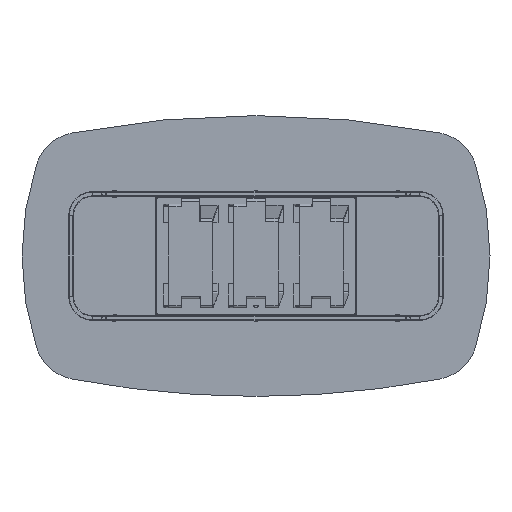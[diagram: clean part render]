
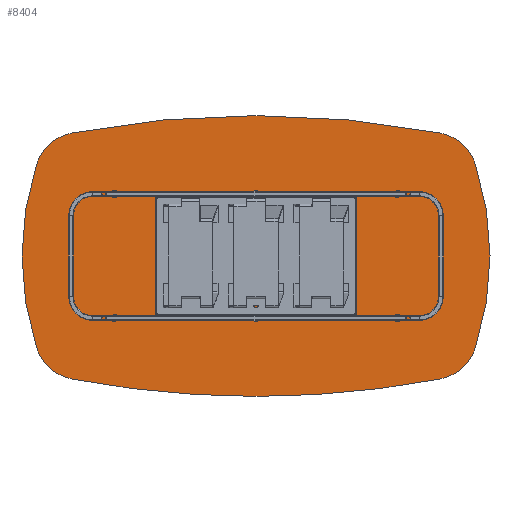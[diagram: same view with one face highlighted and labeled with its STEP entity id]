
A CAD part, front view. The second image highlights one B-rep face of the part: STEP entity #8404.
In plain terms, the highlighted planar face has unit normal (0, -1, 0).
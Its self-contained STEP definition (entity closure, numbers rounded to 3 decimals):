
#56 = CIRCLE ( 'NONE', #4020, 1261. ) ;
#105 = CIRCLE ( 'NONE', #4922, 4200. ) ;
#195 = DIRECTION ( 'NONE',  ( 0., 1., 0. ) ) ;
#339 = VERTEX_POINT ( 'NONE', #14155 ) ;
#368 = VERTEX_POINT ( 'NONE', #13359 ) ;
#580 = PLANE ( 'NONE',  #9961 ) ;
#584 = CARTESIAN_POINT ( 'NONE',  ( 0., 0., -3600. ) ) ;
#750 = ORIENTED_EDGE ( 'NONE', *, *, #14027, .T. ) ;
#1892 = CARTESIAN_POINT ( 'NONE',  ( -937.639, 0., -391.646 ) ) ;
#2009 = DIRECTION ( 'NONE',  ( 0., 0., 1. ) ) ;
#2068 = EDGE_CURVE ( 'NONE', #2678, #13800, #11245, .T. ) ;
#2081 = VERTEX_POINT ( 'NONE', #6579 ) ;
#2361 = DIRECTION ( 'NONE',  ( 0., 1., 0. ) ) ;
#2556 = CARTESIAN_POINT ( 'NONE',  ( 0., 0., 3600. ) ) ;
#2678 = VERTEX_POINT ( 'NONE', #15200 ) ;
#2862 = CARTESIAN_POINT ( 'NONE',  ( 0., 0., 3600. ) ) ;
#2985 = CARTESIAN_POINT ( 'NONE',  ( 937.639, 0., -391.646 ) ) ;
#3069 = VERTEX_POINT ( 'NONE', #9601 ) ;
#3329 = DIRECTION ( 'NONE',  ( 0., 1., 0. ) ) ;
#3498 = CARTESIAN_POINT ( 'NONE',  ( 784.906, 0., 526.006 ) ) ;
#3706 = DIRECTION ( 'NONE',  ( 0., 0., 1. ) ) ;
#3935 = ORIENTED_EDGE ( 'NONE', *, *, #11975, .T. ) ;
#4020 = AXIS2_PLACEMENT_3D ( 'NONE', #12676, #7140, #12584 ) ;
#4090 = CIRCLE ( 'NONE', #10076, 1261. ) ;
#4745 = CARTESIAN_POINT ( 'NONE',  ( -261., 0., 0. ) ) ;
#4922 = AXIS2_PLACEMENT_3D ( 'NONE', #2556, #14456, #3706 ) ;
#5084 = DIRECTION ( 'NONE',  ( 0., 0., 1. ) ) ;
#5173 = CARTESIAN_POINT ( 'NONE',  ( 784.906, 0., -526.006 ) ) ;
#5453 = ORIENTED_EDGE ( 'NONE', *, *, #2068, .T. ) ;
#5819 = ORIENTED_EDGE ( 'NONE', *, *, #14848, .T. ) ;
#6579 = CARTESIAN_POINT ( 'NONE',  ( -784.906, 0., -526.006 ) ) ;
#6822 = CIRCLE ( 'NONE', #16742, 4200. ) ;
#7026 = ORIENTED_EDGE ( 'NONE', *, *, #16760, .F. ) ;
#7140 = DIRECTION ( 'NONE',  ( 0., 1., 0. ) ) ;
#8404 = ADVANCED_FACE ( 'NONE', ( #10017 ), #580, .F. ) ;
#8590 = CIRCLE ( 'NONE', #14542, 200. ) ;
#8646 = ORIENTED_EDGE ( 'NONE', *, *, #13701, .F. ) ;
#8750 = CARTESIAN_POINT ( 'NONE',  ( -747.529, 0., 329.529 ) ) ;
#8765 = DIRECTION ( 'NONE',  ( 0., 0., 1. ) ) ;
#9396 = DIRECTION ( 'NONE',  ( 0., -1., 0. ) ) ;
#9516 = AXIS2_PLACEMENT_3D ( 'NONE', #14584, #12823, #15564 ) ;
#9561 = EDGE_CURVE ( 'NONE', #3069, #13800, #13621, .T. ) ;
#9601 = CARTESIAN_POINT ( 'NONE',  ( -784.906, 0., 526.006 ) ) ;
#9617 = DIRECTION ( 'NONE',  ( 0., -1., 0. ) ) ;
#9961 = AXIS2_PLACEMENT_3D ( 'NONE', #10188, #15420, #12856 ) ;
#10017 = FACE_OUTER_BOUND ( 'NONE', #10338, .T. ) ;
#10024 = CIRCLE ( 'NONE', #14544, 200. ) ;
#10076 = AXIS2_PLACEMENT_3D ( 'NONE', #4745, #3329, #2009 ) ;
#10109 = VERTEX_POINT ( 'NONE', #5173 ) ;
#10188 = CARTESIAN_POINT ( 'NONE',  ( -130.5, 0., 1800. ) ) ;
#10256 = DIRECTION ( 'NONE',  ( 0., 0., 1. ) ) ;
#10262 = EDGE_CURVE ( 'NONE', #368, #2081, #6822, .T. ) ;
#10338 = EDGE_LOOP ( 'NONE', ( #16486, #3935, #8646, #5819, #17146, #7026, #750, #16615, #5453 ) ) ;
#11245 = CIRCLE ( 'NONE', #9516, 200. ) ;
#11975 = EDGE_CURVE ( 'NONE', #3069, #339, #10024, .T. ) ;
#12384 = VERTEX_POINT ( 'NONE', #1892 ) ;
#12584 = DIRECTION ( 'NONE',  ( 0., 0., 1. ) ) ;
#12607 = CIRCLE ( 'NONE', #17128, 200. ) ;
#12676 = CARTESIAN_POINT ( 'NONE',  ( 261., 0., 0. ) ) ;
#12823 = DIRECTION ( 'NONE',  ( 0., -1., 0. ) ) ;
#12856 = DIRECTION ( 'NONE',  ( 0., 0., 1. ) ) ;
#13359 = CARTESIAN_POINT ( 'NONE',  ( 0., 0., -600. ) ) ;
#13383 = CARTESIAN_POINT ( 'NONE',  ( -747.529, 0., -329.529 ) ) ;
#13597 = CARTESIAN_POINT ( 'NONE',  ( 747.529, 0., -329.529 ) ) ;
#13612 = DIRECTION ( 'NONE',  ( 0., 0., 1. ) ) ;
#13621 = CIRCLE ( 'NONE', #15043, 4200. ) ;
#13701 = EDGE_CURVE ( 'NONE', #12384, #339, #56, .T. ) ;
#13800 = VERTEX_POINT ( 'NONE', #3498 ) ;
#14027 = EDGE_CURVE ( 'NONE', #10109, #15549, #8590, .T. ) ;
#14152 = DIRECTION ( 'NONE',  ( 0., -1., 0. ) ) ;
#14155 = CARTESIAN_POINT ( 'NONE',  ( -937.639, 0., 391.646 ) ) ;
#14456 = DIRECTION ( 'NONE',  ( 0., 1., 0. ) ) ;
#14542 = AXIS2_PLACEMENT_3D ( 'NONE', #13597, #9617, #5084 ) ;
#14544 = AXIS2_PLACEMENT_3D ( 'NONE', #8750, #14152, #10256 ) ;
#14584 = CARTESIAN_POINT ( 'NONE',  ( 747.529, 0., 329.529 ) ) ;
#14705 = DIRECTION ( 'NONE',  ( 0., 0., 1. ) ) ;
#14848 = EDGE_CURVE ( 'NONE', #12384, #2081, #12607, .T. ) ;
#15043 = AXIS2_PLACEMENT_3D ( 'NONE', #584, #2361, #8765 ) ;
#15200 = CARTESIAN_POINT ( 'NONE',  ( 937.639, 0., 391.646 ) ) ;
#15420 = DIRECTION ( 'NONE',  ( 0., 1., 0. ) ) ;
#15549 = VERTEX_POINT ( 'NONE', #2985 ) ;
#15564 = DIRECTION ( 'NONE',  ( 0., 0., 1. ) ) ;
#15852 = EDGE_CURVE ( 'NONE', #2678, #15549, #4090, .T. ) ;
#16486 = ORIENTED_EDGE ( 'NONE', *, *, #9561, .F. ) ;
#16615 = ORIENTED_EDGE ( 'NONE', *, *, #15852, .F. ) ;
#16742 = AXIS2_PLACEMENT_3D ( 'NONE', #2862, #195, #13612 ) ;
#16760 = EDGE_CURVE ( 'NONE', #10109, #368, #105, .T. ) ;
#17128 = AXIS2_PLACEMENT_3D ( 'NONE', #13383, #9396, #14705 ) ;
#17146 = ORIENTED_EDGE ( 'NONE', *, *, #10262, .F. ) ;
